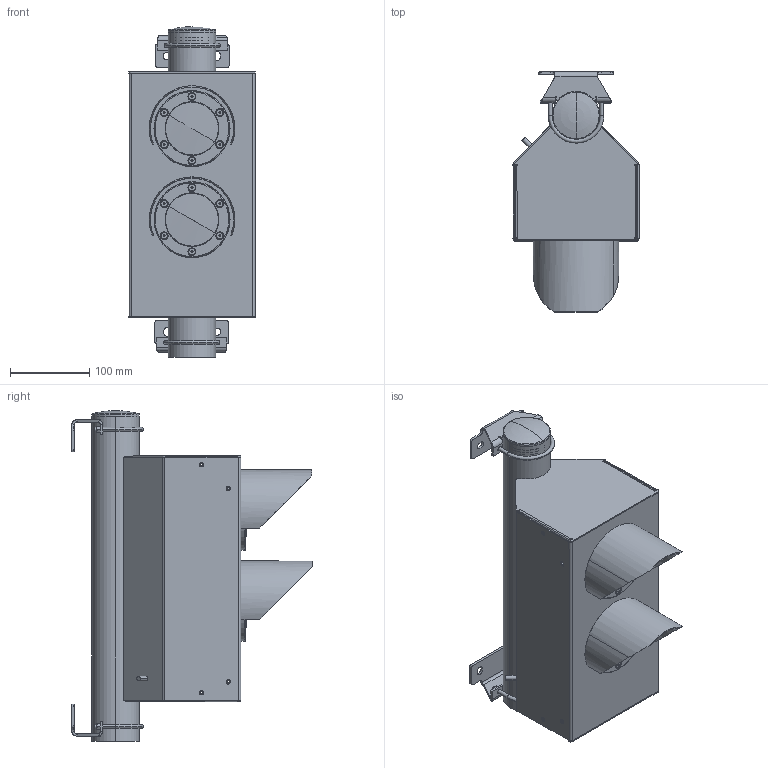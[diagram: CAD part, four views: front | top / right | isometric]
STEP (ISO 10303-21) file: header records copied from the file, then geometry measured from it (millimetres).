
FILE_DESCRIPTION(('STEP AP214'),'1');
FILE_NAME('Stoplicht_2_lamps_assy.stp','2025-02-14T13:35:54',(' '),(' '),'Spatial InterOp 3D',' ',' ');
FILE_SCHEMA(('AUTOMOTIVE_DESIGN { 1 0 10303 214 1 1 1 1 }'));
Length unit declared in the file: metre
Products named in the file (49): aardnok; aardnok Geometry; M4x10; aard; M4 lock washer; AR-048; Patroon; screw_iso_10642-m4x12-12_9; Raam; AR-048-02_Lens; AR-0472; wartel_50_616_m16_lang; O-ring 69,57x1,78; din 966_m4x10; Nut_M4_DIN934; wartel_50_616_M16_kort; Ring; Stoplicht_2_lamps_assy; Huis; Huis Geometry; Vaste vorm; zonneklep; U-beugel; U-beugel Geometry; fhtr4_0; AR-049-04 beugel; AR-049-04 beugel Geometry; U-beugel2; nut_din_en_24032-m5-10; deksel; deksel Geometry; fhtr4_02; fhtr4_03; AR-049-04 beugel-1; deksel2; fhtr4_04; fhtr4_05; 180.082.000; 180.082.000_box; 180.082.000_cover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
Assembly tree (86 placements, depth 5):
  Stoplicht_2_lamps_assy
    AR-048
      aardnok
        aardnok Geometry
        M4x10
        aard
        M4 lock washer
      Raam
        Patroon
          screw_iso_10642-m4x12-12_9  x6
        AR-048-02_Lens
      AR-0472
      wartel_50_616_m16_lang
      O-ring 69,57x1,78
      din 966_m4x10
      Nut_M4_DIN934
      wartel_50_616_M16_kort
      Ring
    AR-048
      aardnok
        aardnok Geometry
        M4x10
        aard
        M4 lock washer
      Raam
        Patroon
          screw_iso_10642-m4x12-12_9  x6
        AR-048-02_Lens
      AR-0472
      wartel_50_616_m16_lang
      O-ring 69,57x1,78
      din 966_m4x10
      Nut_M4_DIN934
      wartel_50_616_M16_kort
      Ring
    Huis
      Huis Geometry
      Vaste vorm
      zonneklep  x2
    U-beugel
      U-beugel Geometry
      fhtr4_0  x8
    AR-049-04 beugel
      AR-049-04 beugel Geometry
      U-beugel2
      nut_din_en_24032-m5-10  x2
    deksel
      deksel Geometry
      fhtr4_02
      fhtr4_03
    AR-049-04 beugel-1
      AR-049-04 beugel Geometry
      U-beugel2
      nut_din_en_24032-m5-10  x2
    deksel2
      deksel Geometry
      fhtr4_04
      fhtr4_05
    180.082.000
      180.082.000_box
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Bounding box: 159.1 x 303.18 x 417.08 mm (x, y, z)
Volume: 1216699.1 mm3; surface area: 951087.9 mm2
Topology: 70 solids, 70 shells, 4186 faces, 10622 edges, 6661 vertices
Faces by surface type: plane 1583, cylinder 1317, cone 818, torus 234, bspline 96, sphere 94, extrusion 44
Entity records: 80553 total; most frequent: CARTESIAN_POINT 22652, DIRECTION 12169, ORIENTED_EDGE 11594, EDGE_CURVE 5797, AXIS2_PLACEMENT_3D 4539, VERTEX_POINT 3664, VECTOR 3091, LINE 3047
